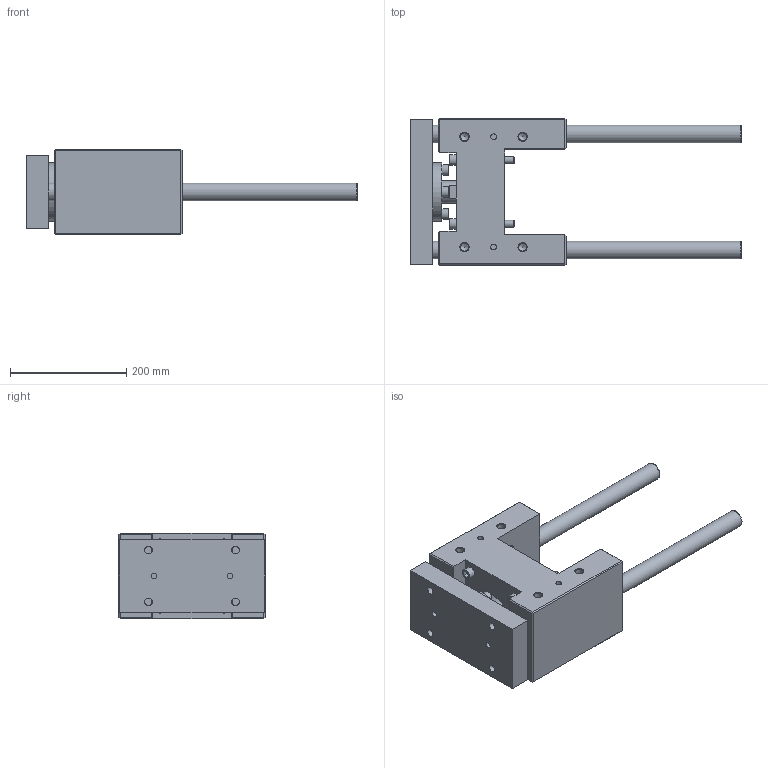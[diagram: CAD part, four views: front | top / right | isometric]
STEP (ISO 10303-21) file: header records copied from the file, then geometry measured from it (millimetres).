
FILE_DESCRIPTION( ( 'STEP AP214' ), '1' );
FILE_NAME( 'U:/Etudes/Top Solid/BIBLIO 3D AVM/TOP/PNEUMATIQUE/GUIDAGES/Type 32 (en H)/R_Renforcée/320R5_30.step', '2005-05-27T08:40:42', ( ' ' ), ( ' ' ), 'XStep 1.0', ' ', ' ' );
FILE_SCHEMA( ( 'automotive_design' ) );
Length unit declared in the file: metre
Products named in the file (2): 1; 2
Bounding box: 570 x 252 x 148 mm (x, y, z)
Volume: 6699274.6 mm3; surface area: 564256.1 mm2
Topology: 2 solids, 7 shells, 238 faces, 524 edges, 339 vertices
Faces by surface type: plane 149, cylinder 68, cone 21
Full cylindrical faces by diameter (mm): 10 x4, 10.106 x4, 12 x16, 13 x12, 13.835 x8, 18 x8, 20 x4, 24.835 x1, 30 x4, 39 x1, 42 x1, 57 x1, 60 x2, 65 x1, 100 x1
Entity records: 7905 total; most frequent: CARTESIAN_POINT 1198, DIRECTION 996, ORIENTED_EDGE 784, EDGE_CURVE 392, EDGE_LOOP 390, AXIS2_PLACEMENT_3D 372, FACE_OUTER_BOUND 306, VERTEX_POINT 302
